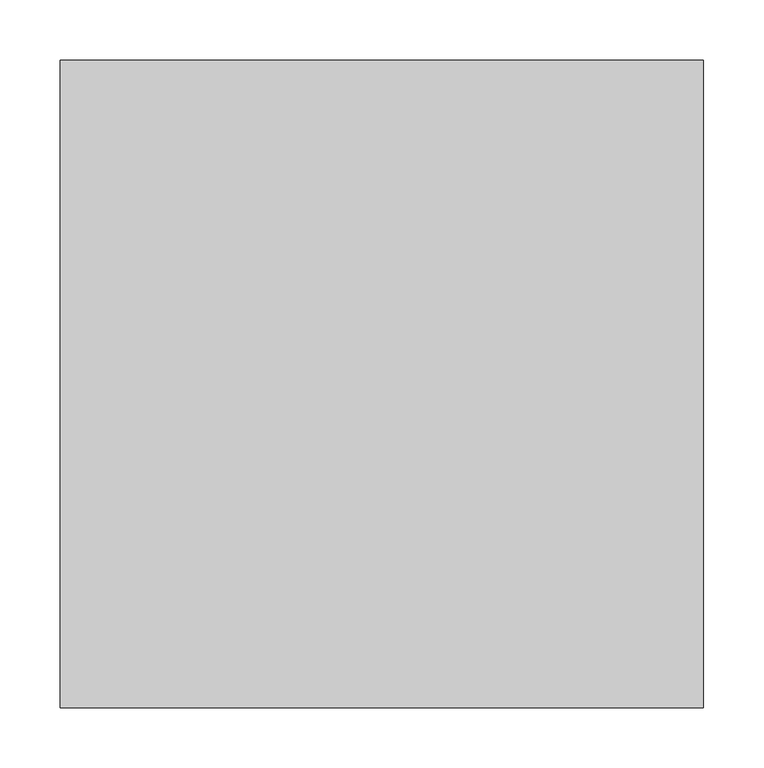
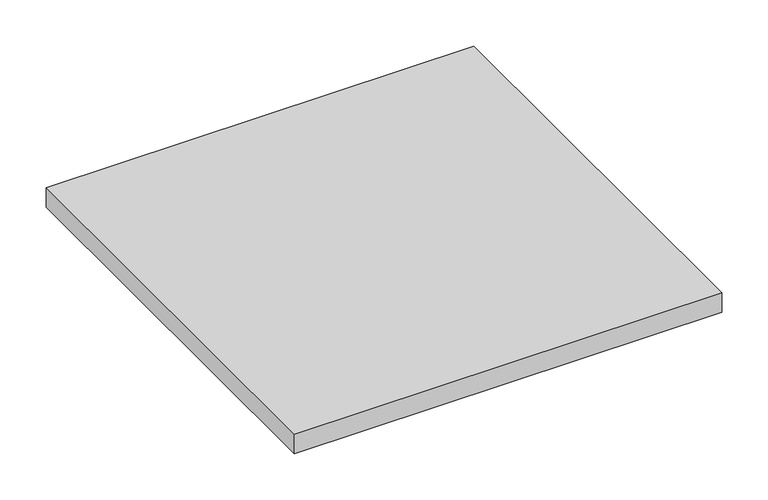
"""IFC4 building model written with IfcOpenShell, lengths in millimetres: furniture geometry."""

import ifcopenshell
import ifcopenshell.guid

model = None  # the IFC model being written
_history = None  # IfcOwnerHistory: only IFC2X3 demands one
_inside = {}  # id of a spatial element -> (the spatial element, [elements in it])
_under = {}  # id of a project, library or spatial element -> (it, [spatial elements below it])
_declared = {}  # id of a project -> (the project, [libraries it declares])
_typed = {}  # id of a type object -> (the type object, [elements of that type])
_made_of = {}  # id of a material, layer set ... -> (it, [elements and type objects made of it])


def new_model(schema):
    """Start an empty IFC model of exactly this schema.

    Asked for "IFC4X3", IfcOpenShell would pick the latest addendum, in which some entities
    have other attributes; the version numbers below select the first issue.
    IFC2X3 requires an IfcOwnerHistory on every rooted entity: one is made here for all.
    """
    global model, _history
    if schema == "IFC4X3":
        model = ifcopenshell.file(schema_version=(4, 3, 0, 0))
    else:
        model = ifcopenshell.file(schema=schema)
    _inside.clear()
    _under.clear()
    _declared.clear()
    _typed.clear()
    _made_of.clear()
    _history = None
    if model.schema == "IFC2X3":
        org = make("IfcOrganization", Name="unknown")
        user = make(
            "IfcPersonAndOrganization",
            ThePerson=make("IfcPerson", FamilyName="unknown"),
            TheOrganization=org,
        )
        app = make(
            "IfcApplication",
            ApplicationDeveloper=org,
            Version="unknown",
            ApplicationFullName="unknown",
            ApplicationIdentifier="unknown",
        )
        _history = make(
            "IfcOwnerHistory",
            OwningUser=user,
            OwningApplication=app,
            ChangeAction="ADDED",
            CreationDate=0,
        )
    return model


def make(cls, **values):
    """One entity of the class cls with the attributes given. An attribute that is None is left unset."""
    return model.create_entity(
        cls, **{name: value for name, value in values.items() if value is not None}
    )


def rooted(cls, **values):
    """An entity with a GlobalId (a new one), such as an element, a storey or a relation."""
    return make(cls, GlobalId=ifcopenshell.guid.new(), OwnerHistory=_history, **values)


def si_unit(unit_type, name, prefix=None):
    """IfcSIUnit, for example si_unit("LENGTHUNIT", "METRE", prefix="MILLI")."""
    return make("IfcSIUnit", UnitType=unit_type, Prefix=prefix, Name=name)


def assignment(units):
    """IfcUnitAssignment: the units of a project."""
    return None if units is None else make("IfcUnitAssignment", Units=units)


def point(xyz):
    """IfcCartesianPoint."""
    return None if xyz is None else make("IfcCartesianPoint", Coordinates=xyz)


def direction(xyz):
    """IfcDirection."""
    return None if xyz is None else make("IfcDirection", DirectionRatios=xyz)


def frame(location, z_axis=None, x_axis=None):
    """IfcAxis2Placement3D, a coordinate frame: its origin and axes. An axis left out is left unset."""
    return make(
        "IfcAxis2Placement3D",
        Location=point(location),
        Axis=direction(z_axis),
        RefDirection=direction(x_axis),
    )


def origin():
    """The frame at (0, 0, 0) with its axes left unset."""
    return frame((0.0, 0.0, 0.0))


def place(relative_to, where):
    """IfcLocalPlacement: puts the frame where relative to a parent placement (None: the world)."""
    return make(
        "IfcLocalPlacement", PlacementRelTo=relative_to, RelativePlacement=where
    )


def context(
    kind, dimensions, precision=None, world=None, true_north=None, identifier=None
):
    """IfcGeometricRepresentationContext, for example the 3D "Model" context."""
    return make(
        "IfcGeometricRepresentationContext",
        ContextIdentifier=identifier,
        ContextType=kind,
        CoordinateSpaceDimension=dimensions,
        Precision=precision,
        WorldCoordinateSystem=world,
        TrueNorth=true_north,
    )


def project(units=None, contexts=None):
    """IfcProject with its units and contexts."""
    return rooted(
        "IfcProject",
        Name="project",
        RepresentationContexts=contexts,
        UnitsInContext=assignment(units),
    )


def spatial(cls, under=None, at=None, **own):
    """A site, building, storey or space (cls), placed at a placement, below another one or the project."""
    s = rooted(cls, ObjectPlacement=at, **own)
    if under is not None:
        _under.setdefault(under.id(), (under, []))[1].append(s)
    return s


def polyline(points):
    """IfcPolyline through the points."""
    return make("IfcPolyline", Points=[point(p) for p in points])


def outline(outer, holes=None, kind="AREA"):
    """IfcArbitraryClosedProfileDef: a profile drawn as a closed curve; with holes, ...WithVoids."""
    if holes is None:
        return make("IfcArbitraryClosedProfileDef", ProfileType=kind, OuterCurve=outer)
    return make(
        "IfcArbitraryProfileDefWithVoids",
        ProfileType=kind,
        OuterCurve=outer,
        InnerCurves=holes,
    )


def extrude(swept, where, along, depth):
    """IfcExtrudedAreaSolid: the profile swept, set in the frame where, extruded along a direction by depth."""
    return make(
        "IfcExtrudedAreaSolid",
        SweptArea=swept,
        Position=where,
        ExtrudedDirection=direction(along),
        Depth=depth,
    )


def shape(context_of_items, identifier, shape_type, items):
    """IfcShapeRepresentation: the items that make up one representation, for example the "Body"."""
    return make(
        "IfcShapeRepresentation",
        ContextOfItems=context_of_items,
        RepresentationIdentifier=identifier,
        RepresentationType=shape_type,
        Items=items,
    )


def source(mapping_origin, context_of_items, identifier, shape_type, items):
    """IfcRepresentationMap: a shape defined once, which mapped items show again and again."""
    return make(
        "IfcRepresentationMap",
        MappingOrigin=mapping_origin,
        MappedRepresentation=shape(context_of_items, identifier, shape_type, items),
    )


def transform(
    local_origin,
    x_axis=None,
    y_axis=None,
    z_axis=None,
    scale=None,
    scale2=None,
    scale3=None,
    uniform=True,
):
    """IfcCartesianTransformationOperator3D, or its non-uniform kind. x_axis, y_axis, z_axis: its Axis1, 2, 3."""
    if uniform:
        return make(
            "IfcCartesianTransformationOperator3D",
            Axis1=direction(x_axis),
            Axis2=direction(y_axis),
            LocalOrigin=point(local_origin),
            Scale=scale,
            Axis3=direction(z_axis),
        )
    return make(
        "IfcCartesianTransformationOperator3DnonUniform",
        Axis1=direction(x_axis),
        Axis2=direction(y_axis),
        LocalOrigin=point(local_origin),
        Scale=scale,
        Axis3=direction(z_axis),
        Scale2=scale2,
        Scale3=scale3,
    )


def mapped(mapping_source, mapping_target):
    """IfcMappedItem: shows the shape of a source again, moved by a transform."""
    return make(
        "IfcMappedItem", MappingSource=mapping_source, MappingTarget=mapping_target
    )


def made_of(thing, what):
    """Note that an element or type object is made of a material, layer set ...; save() writes the relation."""
    if what is not None:
        _made_of.setdefault(what.id(), (what, []))[1].append(thing)
    return thing


def element(
    cls,
    number,
    at=None,
    inside=None,
    cuts=None,
    type_object=None,
    material=None,
    context=None,
    identifier="Body",
    shape_type=None,
    held_by="IfcProductDefinitionShape",
    body=None,
    shapes=None,
    **own,
):
    """One element of the class cls, such as IfcWall. Its Tag is "e" and its number.

    at: its placement. inside: the storey or other place that contains it. cuts: it is an
    opening in that element (IfcRelVoidsElement). A single representation is given by context,
    identifier, shape_type and body (its items); several are given by shapes. held_by: the class
    of the entity that holds the representations. save() writes the other relations.
    """
    e = rooted(cls, Tag="e%d" % number, ObjectPlacement=at, **own)
    if body is not None:
        shapes = [shape(context, identifier, shape_type, body)]
    if shapes is not None:
        e.Representation = make(held_by, Representations=shapes)
    if inside is not None:
        _inside.setdefault(inside.id(), (inside, []))[1].append(e)
    if cuts is not None:
        rooted(
            "IfcRelVoidsElement", RelatingBuildingElement=cuts, RelatedOpeningElement=e
        )
    if type_object is not None:
        _typed.setdefault(type_object.id(), (type_object, []))[1].append(e)
    return made_of(e, material)


def aggregate(whole, parts):
    """IfcRelAggregates: a whole, such as a stair, and the parts it consists of."""
    return rooted("IfcRelAggregates", RelatingObject=whole, RelatedObjects=parts)


def save(model, path):
    """Write the relations noted so far, then the file.

    IfcRelAggregates (storeys below a building ...), IfcRelContainedInSpatialStructure (elements
    in a storey), IfcRelDefinesByType, IfcRelAssociatesMaterial and IfcRelDeclares: one each for
    every whole, place, type object, material and project.
    """
    for whole, parts in _under.values():
        aggregate(whole, parts)
    for where, things in _inside.values():
        rooted(
            "IfcRelContainedInSpatialStructure",
            RelatedElements=things,
            RelatingStructure=where,
        )
    for kind, things in _typed.values():
        rooted("IfcRelDefinesByType", RelatedObjects=things, RelatingType=kind)
    for what, things in _made_of.values():
        rooted("IfcRelAssociatesMaterial", RelatedObjects=things, RelatingMaterial=what)
    for by, libraries in _declared.values():
        rooted("IfcRelDeclares", RelatingContext=by, RelatedDefinitions=libraries)
    model.write(path)


def furniture_9508fd13(model_context):
    return source(origin(), model_context, "Body", "SweptSolid", [
        extrude(outline(polyline([(106.5641996, 262.7913812), (-425.2610004, 262.7913812), (-425.2610004, 797.7915812), (106.5641996, 797.7915812), (106.5641996, 262.7913812)])), frame((0.0, 0.0, 676.06672), z_axis=(0.0, 0.0, 1.0), x_axis=(1.0, 0.0, 0.0)), (0.0, 0.0, 1.0), 25.4),
    ])


if __name__ == "__main__":
    model = new_model("IFC4")
    model_context = context("Model", 3, world=origin())
    ifc_project = project(units=[si_unit("LENGTHUNIT", "METRE", prefix="MILLI")], contexts=[model_context])
    site = spatial("IfcSite", under=ifc_project)
    building = spatial("IfcBuilding", under=site)
    placement = place(None, origin())
    furniture_shape = furniture_9508fd13(model_context)
    element("IfcFurniture", 1, ObjectType="HermanMiller_CoStruc_C5041_StorageCaseShelf : 23\"D x 22\"W", at=placement, inside=building, context=model_context, shape_type="MappedRepresentation", body=[
        mapped(furniture_shape, transform((0.0, 0.0, 0.0), x_axis=(1.0, 0.0, 0.0), y_axis=(0.0, 1.0, 0.0), z_axis=(0.0, 0.0, 1.0))),
    ])
    save(model, "model.ifc")
